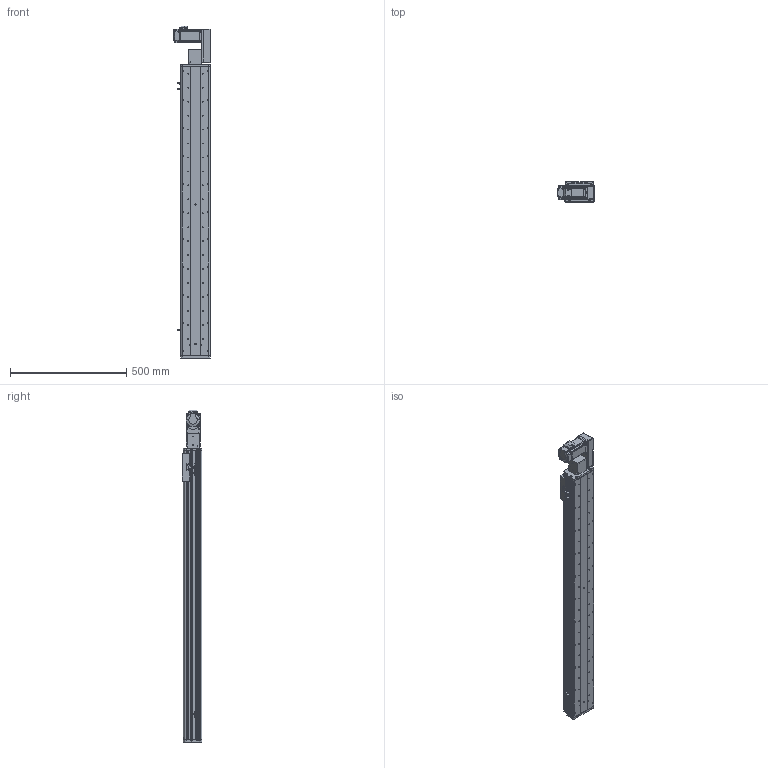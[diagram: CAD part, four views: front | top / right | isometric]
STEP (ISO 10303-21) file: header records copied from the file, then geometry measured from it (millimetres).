
FILE_DESCRIPTION (( 'STEP AP214' ), '1' );
FILE_NAME ('KSD125B-S1050-MLB-CM.STEP', '2017-10-21T01:55:01', ( '微软用户' ), ( '微软中国' ), 'SwSTEP 2.0', 'SolidWorks 2014', '' );
FILE_SCHEMA (( 'AUTOMOTIVE_DESIGN' ));
Length unit declared in the file: millimetre
Products named in the file (17): KSD125B-S1050-MLB-CM; 悵誘欶奻狟殏; HTPA30S3M150_A_H6_a佪裝蚚; HTPA30S3M150_A_H6_a萇儂蚚; 100宽马达安装板连板上下折丝杆同步带; 100宽马达安装板同步带左; KSD125模组1050行程同步带-防尘盖; 125模组1050行程同步带-底板; MHMD042G1CA_2_03; KSD125模组同步带-防撞垫2; 覜茼え68遵圉猾敕; U倰嫖萇假蚾璃; U倰嫖萇EEㄜSX672; KSD125模组同步带-防撞垫1; 前端板-125宽模组同步带; 125模组同步带-尾端板1; KSD125模组同步带-滑动座1
Assembly tree (20 placements, depth 2):
  KSD125B-S1050-MLB-CM
    KSD125模组同步带-滑动座1
    125模组同步带-尾端板1
    前端板-125宽模组同步带
    KSD125模组同步带-防撞垫1
    U倰嫖萇EEㄜSX672  x3
    U倰嫖萇假蚾璃  x3
    覜茼え68遵圉猾敕
    KSD125模组同步带-防撞垫2
    MHMD042G1CA_2_03
    125模组1050行程同步带-底板
    KSD125模组1050行程同步带-防尘盖
    100宽马达安装板同步带左
    100宽马达安装板连板上下折丝杆同步带
    HTPA30S3M150_A_H6_a萇儂蚚
    HTPA30S3M150_A_H6_a佪裝蚚
    悵誘欶奻狟殏
Bounding box: 155 x 86 x 1428 mm (x, y, z)
Volume: 4058002.9 mm3; surface area: 1363251.2 mm2
Topology: 19 solids, 22 shells, 2325 faces, 6739 edges, 4454 vertices
Faces by surface type: cylinder 1468, plane 730, cone 105, bspline 22
Entity records: 82901 total; most frequent: CARTESIAN_POINT 16353, DIRECTION 12884, ORIENTED_EDGE 11998, EDGE_CURVE 6077, AXIS2_PLACEMENT_3D 4989, VERTEX_POINT 4046, LINE 2906, VECTOR 2906
